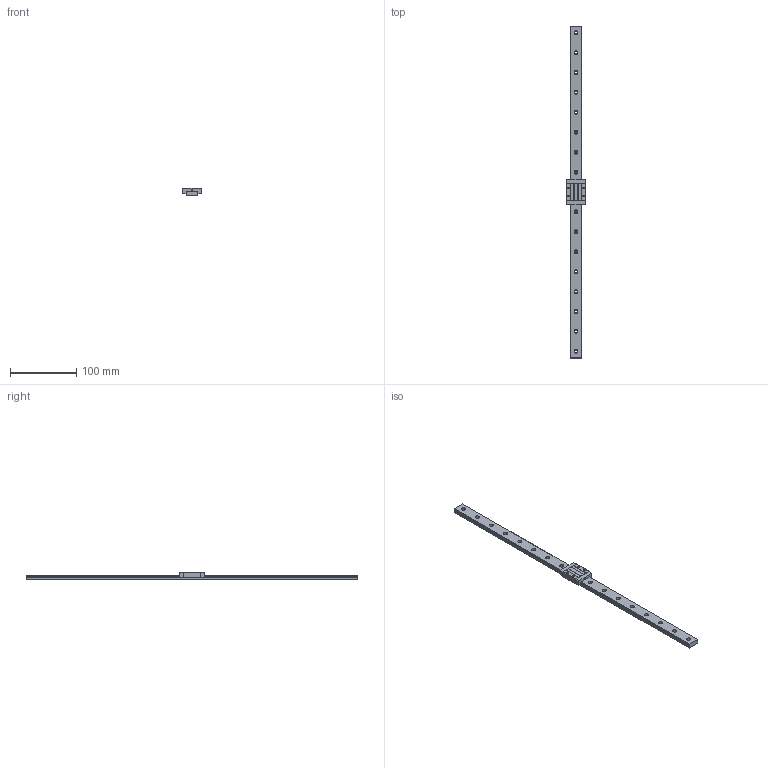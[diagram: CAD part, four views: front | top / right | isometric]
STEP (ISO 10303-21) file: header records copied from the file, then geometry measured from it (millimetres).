
FILE_DESCRIPTION(/* description */ (''),/* implementation_level */ '2;1');
FILE_NAME(/* name */ 'TM09WN.stp',/* time_stamp */ '2017-10-31T11:06:06+08:00',/* author */ (''),/* organization */ (''),/* preprocessor_version */ 'ST-DEVELOPER v11',/* originating_system */ 'SIEMENS UGS NX 6.0',/* authorisation */ '');
FILE_SCHEMA (('AUTOMOTIVE_DESIGN { 1 0 10303 214 1 1 1 1 }'));
Length unit declared in the file: millimetre
Products named in the file (1): TM09WN
Bounding box: 30 x 500 x 12 mm (x, y, z)
Volume: 68850.5 mm3; surface area: 32329.7 mm2
Topology: 2 solids, 2 shells, 157 faces, 415 edges, 281 vertices
Faces by surface type: plane 81, cylinder 72, cone 4
Full cylindrical faces by diameter (mm): 1.3 x2, 2.5 x4, 3.5 x17, 6 x17
Entity records: 4585 total; most frequent: DIRECTION 806, CARTESIAN_POINT 764, ORIENTED_EDGE 692, EDGE_CURVE 346, AXIS2_PLACEMENT_3D 302, VERTEX_POINT 260, EDGE_LOOP 254, LINE 202
